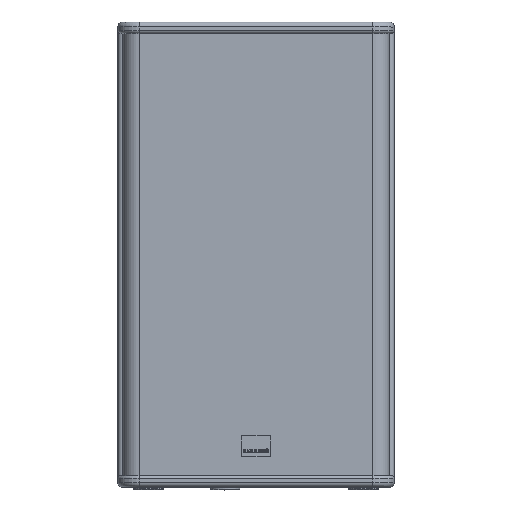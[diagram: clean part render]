
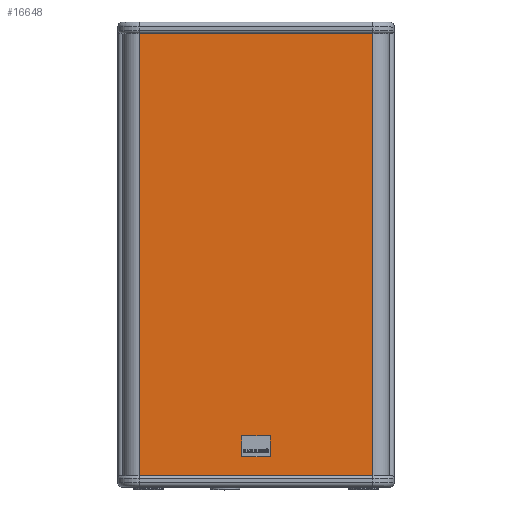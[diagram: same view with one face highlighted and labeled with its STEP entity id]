
A CAD part, top view. The second image highlights one B-rep face of the part: STEP entity #16648.
In plain terms, the highlighted planar face has unit normal (0, 0, 1) as drawn and (0, -1, 0) by its records, which use the part's own axes.
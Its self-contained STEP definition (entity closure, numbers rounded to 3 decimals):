
#16646 = VERTEX_POINT ( 'NONE', #19370 ) ;
#16647 = ORIENTED_EDGE ( 'NONE', *, *, #16652, .T. ) ;
#16648 = ADVANCED_FACE ( 'NONE', ( #19366 ), #19365, .T. ) ;
#16651 = ORIENTED_EDGE ( 'NONE', *, *, #16964, .F. ) ;
#16652 = EDGE_CURVE ( 'NONE', #16646, #16655, #19427, .T. ) ;
#16655 = VERTEX_POINT ( 'NONE', #19423 ) ;
#16658 = VERTEX_POINT ( 'NONE', #19416 ) ;
#16672 = EDGE_LOOP ( 'NONE', ( #16647, #16651, #16923, #16838 ) ) ;
#16838 = ORIENTED_EDGE ( 'NONE', *, *, #16881, .F. ) ;
#16881 = EDGE_CURVE ( 'NONE', #16646, #16901, #19895, .T. ) ;
#16901 = VERTEX_POINT ( 'NONE', #19933 ) ;
#16923 = ORIENTED_EDGE ( 'NONE', *, *, #16950, .F. ) ;
#16950 = EDGE_CURVE ( 'NONE', #16901, #16658, #19986, .T. ) ;
#16964 = EDGE_CURVE ( 'NONE', #16658, #16655, #20038, .T. ) ;
#19365 = PLANE ( 'NONE',  #19431 ) ;
#19366 = FACE_OUTER_BOUND ( 'NONE', #16672, .T. ) ;
#19370 = CARTESIAN_POINT ( 'NONE',  ( 28., 6.5, 0. ) ) ;
#19416 = CARTESIAN_POINT ( 'NONE',  ( 332., 6.43, 576. ) ) ;
#19423 = CARTESIAN_POINT ( 'NONE',  ( 332., 6.43, 0. ) ) ;
#19424 = DIRECTION ( 'NONE',  ( 1., 0., 0. ) ) ;
#19425 = VECTOR ( 'NONE', #19424, 1000. ) ;
#19426 = CARTESIAN_POINT ( 'NONE',  ( 28., 6.5, 0. ) ) ;
#19427 = LINE ( 'NONE', #19426, #19425 ) ;
#19428 = DIRECTION ( 'NONE',  ( 1., 0., 0. ) ) ;
#19429 = DIRECTION ( 'NONE',  ( 0., -1., 0. ) ) ;
#19430 = CARTESIAN_POINT ( 'NONE',  ( 332., 6.43, 0. ) ) ;
#19431 = AXIS2_PLACEMENT_3D ( 'NONE', #19430, #19429, #19428 ) ;
#19892 = DIRECTION ( 'NONE',  ( 0., 0., 1. ) ) ;
#19893 = VECTOR ( 'NONE', #19892, 1000. ) ;
#19894 = CARTESIAN_POINT ( 'NONE',  ( 28., 6.5, 0. ) ) ;
#19895 = LINE ( 'NONE', #19894, #19893 ) ;
#19933 = CARTESIAN_POINT ( 'NONE',  ( 28., 6.5, 576. ) ) ;
#19983 = DIRECTION ( 'NONE',  ( 1., 0., 0. ) ) ;
#19984 = VECTOR ( 'NONE', #19983, 1000. ) ;
#19985 = CARTESIAN_POINT ( 'NONE',  ( 28., 6.5, 576. ) ) ;
#19986 = LINE ( 'NONE', #19985, #19984 ) ;
#20035 = DIRECTION ( 'NONE',  ( 0., 0., -1. ) ) ;
#20036 = VECTOR ( 'NONE', #20035, 1000. ) ;
#20037 = CARTESIAN_POINT ( 'NONE',  ( 332., 6.43, 0. ) ) ;
#20038 = LINE ( 'NONE', #20037, #20036 ) ;
